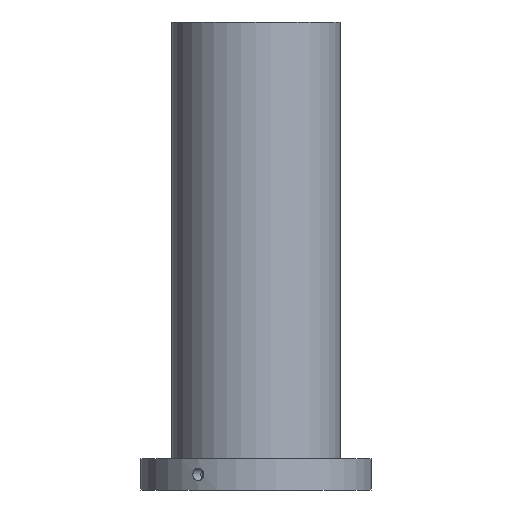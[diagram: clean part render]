
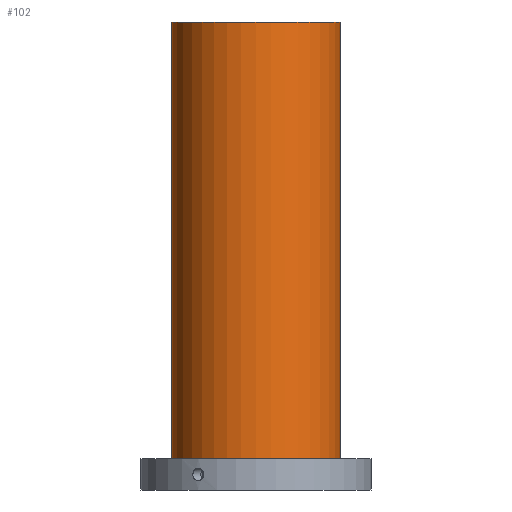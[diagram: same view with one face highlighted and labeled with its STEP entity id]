
A CAD part, front view. The second image highlights one B-rep face of the part: STEP entity #102.
In plain terms, the highlighted cylindrical face has radius 53.5 mm (diameter 107 mm), a full revolution.
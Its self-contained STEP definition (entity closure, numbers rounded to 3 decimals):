
#102=ADVANCED_FACE('',(#136,#137),#119,.T.);
#119=CYLINDRICAL_SURFACE('',#371,53.5);
#136=FACE_BOUND('',#188,.T.);
#137=FACE_BOUND('',#189,.T.);
#188=EDGE_LOOP('',(#240));
#189=EDGE_LOOP('',(#241));
#240=ORIENTED_EDGE('',*,*,#318,.F.);
#241=ORIENTED_EDGE('',*,*,#319,.T.);
#292=VERTEX_POINT('',#557);
#293=VERTEX_POINT('',#559);
#318=EDGE_CURVE('',#292,#292,#343,.T.);
#319=EDGE_CURVE('',#293,#293,#344,.T.);
#343=CIRCLE('',#369,53.5);
#344=CIRCLE('',#370,53.5);
#369=AXIS2_PLACEMENT_3D('',#556,#415,#416);
#370=AXIS2_PLACEMENT_3D('',#558,#417,#418);
#371=AXIS2_PLACEMENT_3D('',#560,#419,#420);
#415=DIRECTION('',(0.,0.,-1.));
#416=DIRECTION('',(1.,0.,0.));
#417=DIRECTION('',(0.,0.,-1.));
#418=DIRECTION('',(1.,0.,0.));
#419=DIRECTION('',(0.,0.,-1.));
#420=DIRECTION('',(-1.,0.,0.));
#556=CARTESIAN_POINT('',(0.,0.,20.));
#557=CARTESIAN_POINT('',(53.5,0.,20.));
#558=CARTESIAN_POINT('',(0.,0.,298.));
#559=CARTESIAN_POINT('',(53.5,0.,298.));
#560=CARTESIAN_POINT('',(0.,0.,298.));
